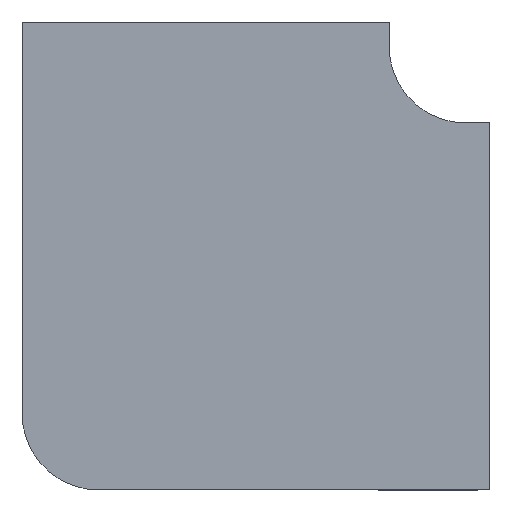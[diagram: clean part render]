
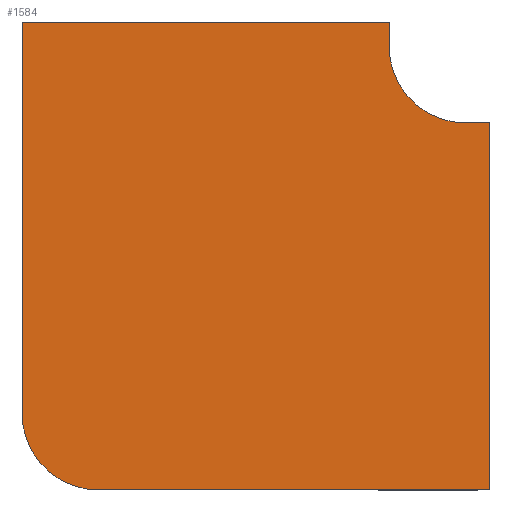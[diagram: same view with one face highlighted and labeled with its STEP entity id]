
A CAD part, front view. The second image highlights one B-rep face of the part: STEP entity #1584.
In plain terms, the highlighted planar face has unit normal (0, -1, 0).
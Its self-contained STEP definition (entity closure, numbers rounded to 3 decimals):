
#8 = EDGE_CURVE ( 'NONE', #713, #1156, #633, .T. ) ;
#11 = CARTESIAN_POINT ( 'NONE',  ( 40., 0., -125. ) ) ;
#50 = CARTESIAN_POINT ( 'NONE',  ( 0., 0., 0. ) ) ;
#59 = DIRECTION ( 'NONE',  ( -1., 0., 0. ) ) ;
#60 = CIRCLE ( 'NONE', #1662, 125. ) ;
#71 = AXIS2_PLACEMENT_3D ( 'NONE', #817, #1343, #182 ) ;
#142 = DIRECTION ( 'NONE',  ( 0., -1., 0. ) ) ;
#168 = VECTOR ( 'NONE', #1440, 1000. ) ;
#182 = DIRECTION ( 'NONE',  ( 0., 0., 1. ) ) ;
#214 = VERTEX_POINT ( 'NONE', #1128 ) ;
#217 = ORIENTED_EDGE ( 'NONE', *, *, #1285, .F. ) ;
#266 = LINE ( 'NONE', #800, #311 ) ;
#311 = VECTOR ( 'NONE', #1169, 1000. ) ;
#320 = DIRECTION ( 'NONE',  ( 1., 0., 0. ) ) ;
#324 = ORIENTED_EDGE ( 'NONE', *, *, #1155, .F. ) ;
#348 = VERTEX_POINT ( 'NONE', #1320 ) ;
#380 = CARTESIAN_POINT ( 'NONE',  ( 40., 0., -125. ) ) ;
#397 = EDGE_LOOP ( 'NONE', ( #217, #324, #409, #628, #864, #915, #1033, #1312 ) ) ;
#409 = ORIENTED_EDGE ( 'NONE', *, *, #604, .F. ) ;
#431 = CARTESIAN_POINT ( 'NONE',  ( -725., 0., 40. ) ) ;
#511 = CARTESIAN_POINT ( 'NONE',  ( 40., 0., -725. ) ) ;
#525 = LINE ( 'NONE', #1036, #168 ) ;
#563 = LINE ( 'NONE', #1626, #954 ) ;
#583 = CARTESIAN_POINT ( 'NONE',  ( -725., 0., -600. ) ) ;
#604 = EDGE_CURVE ( 'NONE', #348, #939, #798, .T. ) ;
#628 = ORIENTED_EDGE ( 'NONE', *, *, #925, .F. ) ;
#633 = LINE ( 'NONE', #11, #1042 ) ;
#669 = CARTESIAN_POINT ( 'NONE',  ( -125., 0., 40. ) ) ;
#713 = VERTEX_POINT ( 'NONE', #380 ) ;
#714 = CARTESIAN_POINT ( 'NONE',  ( -725., 0., 40. ) ) ;
#753 = CARTESIAN_POINT ( 'NONE',  ( -125., 0., 0. ) ) ;
#755 = EDGE_CURVE ( 'NONE', #214, #1051, #1445, .T. ) ;
#766 = DIRECTION ( 'NONE',  ( 0., 0., -1. ) ) ;
#798 = CIRCLE ( 'NONE', #71, 125. ) ;
#800 = CARTESIAN_POINT ( 'NONE',  ( -725., 0., -600. ) ) ;
#817 = CARTESIAN_POINT ( 'NONE',  ( -600., 0., -600. ) ) ;
#864 = ORIENTED_EDGE ( 'NONE', *, *, #8, .F. ) ;
#882 = DIRECTION ( 'NONE',  ( 0., 0., -1. ) ) ;
#915 = ORIENTED_EDGE ( 'NONE', *, *, #1521, .F. ) ;
#925 = EDGE_CURVE ( 'NONE', #1156, #348, #563, .T. ) ;
#939 = VERTEX_POINT ( 'NONE', #583 ) ;
#954 = VECTOR ( 'NONE', #59, 1000. ) ;
#964 = DIRECTION ( 'NONE',  ( 0., -1., 0. ) ) ;
#985 = VECTOR ( 'NONE', #766, 1000. ) ;
#1022 = PLANE ( 'NONE',  #1577 ) ;
#1033 = ORIENTED_EDGE ( 'NONE', *, *, #1641, .F. ) ;
#1036 = CARTESIAN_POINT ( 'NONE',  ( 0., 0., -125. ) ) ;
#1042 = VECTOR ( 'NONE', #882, 1000. ) ;
#1051 = VERTEX_POINT ( 'NONE', #753 ) ;
#1088 = VERTEX_POINT ( 'NONE', #1380 ) ;
#1128 = CARTESIAN_POINT ( 'NONE',  ( -125., 0., 40. ) ) ;
#1155 = EDGE_CURVE ( 'NONE', #939, #1433, #266, .T. ) ;
#1156 = VERTEX_POINT ( 'NONE', #511 ) ;
#1169 = DIRECTION ( 'NONE',  ( 0., 0., 1. ) ) ;
#1285 = EDGE_CURVE ( 'NONE', #1433, #214, #1483, .T. ) ;
#1305 = CARTESIAN_POINT ( 'NONE',  ( 0., 0., 0. ) ) ;
#1312 = ORIENTED_EDGE ( 'NONE', *, *, #755, .F. ) ;
#1320 = CARTESIAN_POINT ( 'NONE',  ( -600., 0., -725. ) ) ;
#1343 = DIRECTION ( 'NONE',  ( 0., 1., 0. ) ) ;
#1346 = DIRECTION ( 'NONE',  ( 0., 0., -1. ) ) ;
#1380 = CARTESIAN_POINT ( 'NONE',  ( 0., 0., -125. ) ) ;
#1420 = FACE_OUTER_BOUND ( 'NONE', #397, .T. ) ;
#1433 = VERTEX_POINT ( 'NONE', #714 ) ;
#1440 = DIRECTION ( 'NONE',  ( 1., 0., 0. ) ) ;
#1445 = LINE ( 'NONE', #669, #985 ) ;
#1483 = LINE ( 'NONE', #431, #1659 ) ;
#1521 = EDGE_CURVE ( 'NONE', #1088, #713, #525, .T. ) ;
#1541 = DIRECTION ( 'NONE',  ( 0., 0., -1. ) ) ;
#1577 = AXIS2_PLACEMENT_3D ( 'NONE', #1305, #142, #1541 ) ;
#1584 = ADVANCED_FACE ( 'NONE', ( #1420 ), #1022, .T. ) ;
#1626 = CARTESIAN_POINT ( 'NONE',  ( 40., 0., -725. ) ) ;
#1641 = EDGE_CURVE ( 'NONE', #1051, #1088, #60, .T. ) ;
#1659 = VECTOR ( 'NONE', #320, 1000. ) ;
#1662 = AXIS2_PLACEMENT_3D ( 'NONE', #50, #964, #1346 ) ;
